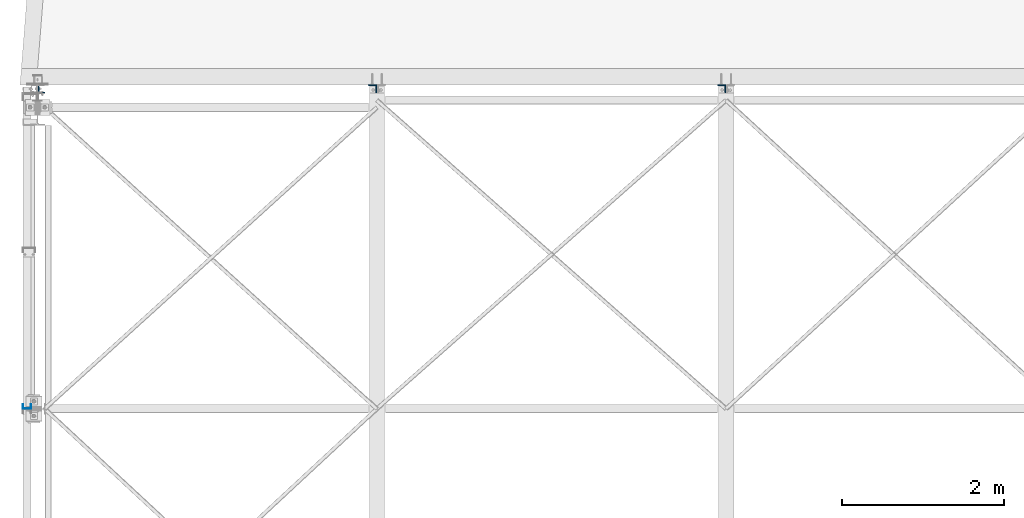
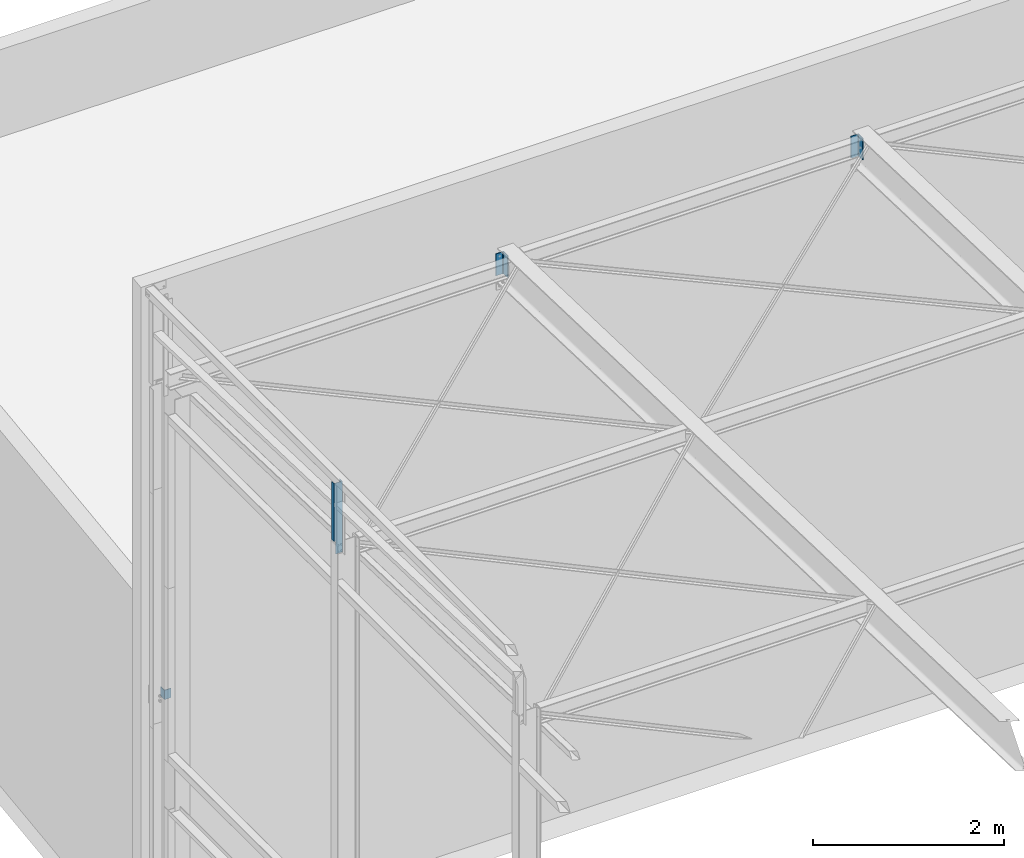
# One storey, part 18 of 123: 4 columns, 4 elements without a shape of their own.
"""IFC2X3 building model written with IfcOpenShell, lengths in millimetres."""

import ifcopenshell
import ifcopenshell.guid

model = None  # the IFC model being written
_history = None  # IfcOwnerHistory: only IFC2X3 demands one
_inside = {}  # id of a spatial element -> (the spatial element, [elements in it])
_under = {}  # id of a project, library or spatial element -> (it, [spatial elements below it])
_declared = {}  # id of a project -> (the project, [libraries it declares])
_typed = {}  # id of a type object -> (the type object, [elements of that type])
_made_of = {}  # id of a material, layer set ... -> (it, [elements and type objects made of it])


def new_model(schema):
    """Start an empty IFC model of exactly this schema.

    Asked for "IFC4X3", IfcOpenShell would pick the latest addendum, in which some entities
    have other attributes; the version numbers below select the first issue.
    IFC2X3 requires an IfcOwnerHistory on every rooted entity: one is made here for all.
    """
    global model, _history
    if schema == "IFC4X3":
        model = ifcopenshell.file(schema_version=(4, 3, 0, 0))
    else:
        model = ifcopenshell.file(schema=schema)
    _inside.clear()
    _under.clear()
    _declared.clear()
    _typed.clear()
    _made_of.clear()
    _history = None
    if model.schema == "IFC2X3":
        org = make("IfcOrganization", Name="unknown")
        user = make(
            "IfcPersonAndOrganization",
            ThePerson=make("IfcPerson", FamilyName="unknown"),
            TheOrganization=org,
        )
        app = make(
            "IfcApplication",
            ApplicationDeveloper=org,
            Version="unknown",
            ApplicationFullName="unknown",
            ApplicationIdentifier="unknown",
        )
        _history = make(
            "IfcOwnerHistory",
            OwningUser=user,
            OwningApplication=app,
            ChangeAction="ADDED",
            CreationDate=0,
        )
    return model


def make(cls, **values):
    """One entity of the class cls with the attributes given. An attribute that is None is left unset."""
    return model.create_entity(
        cls, **{name: value for name, value in values.items() if value is not None}
    )


def rooted(cls, **values):
    """An entity with a GlobalId (a new one), such as an element, a storey or a relation."""
    return make(cls, GlobalId=ifcopenshell.guid.new(), OwnerHistory=_history, **values)


def si_unit(unit_type, name, prefix=None):
    """IfcSIUnit, for example si_unit("LENGTHUNIT", "METRE", prefix="MILLI")."""
    return make("IfcSIUnit", UnitType=unit_type, Prefix=prefix, Name=name)


def assignment(units):
    """IfcUnitAssignment: the units of a project."""
    return None if units is None else make("IfcUnitAssignment", Units=units)


def point(xyz):
    """IfcCartesianPoint."""
    return None if xyz is None else make("IfcCartesianPoint", Coordinates=xyz)


def direction(xyz):
    """IfcDirection."""
    return None if xyz is None else make("IfcDirection", DirectionRatios=xyz)


def frame(location, z_axis=None, x_axis=None):
    """IfcAxis2Placement3D, a coordinate frame: its origin and axes. An axis left out is left unset."""
    return make(
        "IfcAxis2Placement3D",
        Location=point(location),
        Axis=direction(z_axis),
        RefDirection=direction(x_axis),
    )


def frame_2d(location, x_axis=None):
    """IfcAxis2Placement2D, a coordinate frame in the plane: its origin and x axis."""
    return make(
        "IfcAxis2Placement2D", Location=point(location), RefDirection=direction(x_axis)
    )


def origin_with_axes():
    """The frame at (0, 0, 0) with the z axis (0, 0, 1) and the x axis (1, 0, 0) written out."""
    return frame((0.0, 0.0, 0.0), z_axis=(0.0, 0.0, 1.0), x_axis=(1.0, 0.0, 0.0))


def origin_2d_with_axis():
    """The frame at (0, 0) in the plane with the x axis (1, 0) written out."""
    return frame_2d((0.0, 0.0), x_axis=(1.0, 0.0))


def place(relative_to, where):
    """IfcLocalPlacement: puts the frame where relative to a parent placement (None: the world)."""
    return make(
        "IfcLocalPlacement", PlacementRelTo=relative_to, RelativePlacement=where
    )


def context(
    kind, dimensions, precision=None, world=None, true_north=None, identifier=None
):
    """IfcGeometricRepresentationContext, for example the 3D "Model" context."""
    return make(
        "IfcGeometricRepresentationContext",
        ContextIdentifier=identifier,
        ContextType=kind,
        CoordinateSpaceDimension=dimensions,
        Precision=precision,
        WorldCoordinateSystem=world,
        TrueNorth=true_north,
    )


def subcontext(parent, identifier, kind, view, scale=None):
    """IfcGeometricRepresentationSubContext, for example "Body" below "Model"."""
    return make(
        "IfcGeometricRepresentationSubContext",
        ContextIdentifier=identifier,
        ContextType=kind,
        ParentContext=parent,
        TargetScale=scale,
        TargetView=view,
    )


def project(units=None, contexts=None):
    """IfcProject with its units and contexts."""
    return rooted(
        "IfcProject",
        Name="project",
        RepresentationContexts=contexts,
        UnitsInContext=assignment(units),
    )


def spatial(cls, under=None, at=None, **own):
    """A site, building, storey or space (cls), placed at a placement, below another one or the project."""
    s = rooted(cls, ObjectPlacement=at, **own)
    if under is not None:
        _under.setdefault(under.id(), (under, []))[1].append(s)
    return s


def polyline(points):
    """IfcPolyline through the points."""
    return make("IfcPolyline", Points=[point(p) for p in points])


def profile(cls, at=None, kind="AREA", **sizes):
    """A parametric profile (cls). Its sizes go by their IFC names, for example OverallWidth=200.0."""
    return make(cls, ProfileType=kind, Position=at, **sizes)


def l_section(**sizes):
    """IfcLShapeProfileDef."""
    return profile("IfcLShapeProfileDef", **sizes)


def u_section(**sizes):
    """IfcUShapeProfileDef."""
    return profile("IfcUShapeProfileDef", **sizes)


def outline(outer, holes=None, kind="AREA"):
    """IfcArbitraryClosedProfileDef: a profile drawn as a closed curve; with holes, ...WithVoids."""
    if holes is None:
        return make("IfcArbitraryClosedProfileDef", ProfileType=kind, OuterCurve=outer)
    return make(
        "IfcArbitraryProfileDefWithVoids",
        ProfileType=kind,
        OuterCurve=outer,
        InnerCurves=holes,
    )


def extrude(swept, where, along, depth):
    """IfcExtrudedAreaSolid: the profile swept, set in the frame where, extruded along a direction by depth."""
    return make(
        "IfcExtrudedAreaSolid",
        SweptArea=swept,
        Position=where,
        ExtrudedDirection=direction(along),
        Depth=depth,
    )


def boolean(op, a, b):
    """IfcBooleanResult of two solids."""
    return make("IfcBooleanResult", Operator=op, FirstOperand=a, SecondOperand=b)


def shape(context_of_items, identifier, shape_type, items):
    """IfcShapeRepresentation: the items that make up one representation, for example the "Body"."""
    return make(
        "IfcShapeRepresentation",
        ContextOfItems=context_of_items,
        RepresentationIdentifier=identifier,
        RepresentationType=shape_type,
        Items=items,
    )


def material(Name=None, Category=None):
    """IfcMaterial."""
    return make("IfcMaterial", Name=Name, Category=Category)


def made_of(thing, what):
    """Note that an element or type object is made of a material, layer set ...; save() writes the relation."""
    if what is not None:
        _made_of.setdefault(what.id(), (what, []))[1].append(thing)
    return thing


def type_object(cls, material=None, **own):
    """A type object (cls), such as IfcWallType, which elements share."""
    return made_of(rooted(cls, **own), material)


def element(
    cls,
    number,
    at=None,
    inside=None,
    cuts=None,
    type_object=None,
    material=None,
    context=None,
    identifier="Body",
    shape_type=None,
    held_by="IfcProductDefinitionShape",
    body=None,
    shapes=None,
    **own,
):
    """One element of the class cls, such as IfcWall. Its Tag is "e" and its number.

    at: its placement. inside: the storey or other place that contains it. cuts: it is an
    opening in that element (IfcRelVoidsElement). A single representation is given by context,
    identifier, shape_type and body (its items); several are given by shapes. held_by: the class
    of the entity that holds the representations. save() writes the other relations.
    """
    e = rooted(cls, Tag="e%d" % number, ObjectPlacement=at, **own)
    if body is not None:
        shapes = [shape(context, identifier, shape_type, body)]
    if shapes is not None:
        e.Representation = make(held_by, Representations=shapes)
    if inside is not None:
        _inside.setdefault(inside.id(), (inside, []))[1].append(e)
    if cuts is not None:
        rooted(
            "IfcRelVoidsElement", RelatingBuildingElement=cuts, RelatedOpeningElement=e
        )
    if type_object is not None:
        _typed.setdefault(type_object.id(), (type_object, []))[1].append(e)
    return made_of(e, material)


def aggregate(whole, parts):
    """IfcRelAggregates: a whole, such as a stair, and the parts it consists of."""
    return rooted("IfcRelAggregates", RelatingObject=whole, RelatedObjects=parts)


def save(model, path):
    """Write the relations noted so far, then the file.

    IfcRelAggregates (storeys below a building ...), IfcRelContainedInSpatialStructure (elements
    in a storey), IfcRelDefinesByType, IfcRelAssociatesMaterial and IfcRelDeclares: one each for
    every whole, place, type object, material and project.
    """
    for whole, parts in _under.values():
        aggregate(whole, parts)
    for where, things in _inside.values():
        rooted(
            "IfcRelContainedInSpatialStructure",
            RelatedElements=things,
            RelatingStructure=where,
        )
    for kind, things in _typed.values():
        rooted("IfcRelDefinesByType", RelatedObjects=things, RelatingType=kind)
    for what, things in _made_of.values():
        rooted("IfcRelAssociatesMaterial", RelatedObjects=things, RelatingMaterial=what)
    for by, libraries in _declared.values():
        rooted("IfcRelDeclares", RelatingContext=by, RelatedDefinitions=libraries)
    model.write(path)


model = new_model("IFC2X3")

# Units and contexts
model_context = context("Model", 3, precision=1e-05, world=origin_with_axes())
body_context = subcontext(model_context, "Body", "Model", "MODEL_VIEW")
ifc_project = project(units=[si_unit("LENGTHUNIT", "METRE", prefix="MILLI"), si_unit("AREAUNIT", "SQUARE_METRE"), si_unit("VOLUMEUNIT", "CUBIC_METRE"), si_unit("MASSUNIT", "GRAM", prefix="KILO"), si_unit("TIMEUNIT", "SECOND"), si_unit("PLANEANGLEUNIT", "RADIAN"), si_unit("SOLIDANGLEUNIT", "STERADIAN"), si_unit("THERMODYNAMICTEMPERATUREUNIT", "DEGREE_CELSIUS"), si_unit("LUMINOUSINTENSITYUNIT", "LUMEN")], contexts=[model_context])

# Site, building, storey
site_placement = place(None, origin_with_axes())
site = spatial("IfcSite", under=ifc_project, at=site_placement, Name="Undefined", CompositionType="ELEMENT")
building_placement = place(site_placement, origin_with_axes())
building = spatial("IfcBuilding", under=site, at=building_placement, Name="Undefined", CompositionType="ELEMENT")
storey_placement = place(building_placement, origin_with_axes())
storey = spatial("IfcBuildingStorey", under=building, at=storey_placement, Name="Undefined", CompositionType="ELEMENT", Elevation=0.0)

# Assembly, column
assembly_1_placement = place(storey_placement, origin_with_axes())
assembly_1 = element("IfcElementAssembly", 1, at=assembly_1_placement, inside=storey, Name="Steel Assembly", AssemblyPlace="NOTDEFINED", PredefinedType="RIGID_FRAME")
ifc_material = material(Name="STEEL/S235-E24")
column_type_1 = type_object("IfcColumnType", Name="UPF-100*50*4", PredefinedType="NOTDEFINED")
column_1_placement = place(assembly_1_placement, frame((-130.000001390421, 11428.2999999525, 7535.0013155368), z_axis=(0.0, 0.0, 1.0), x_axis=(1.0, 0.0, 0.0)))
column_1 = element("IfcColumn", 2, at=column_1_placement, type_object=column_type_1, material=ifc_material, Name="BAIONNETTE", ObjectType="UPF-100*50*4", context=body_context, shape_type="CSG", body=[
    boolean("DIFFERENCE", extrude(u_section(Depth=100.0, FlangeWidth=50.0, WebThickness=4.0, FlangeThickness=4.0, at=origin_2d_with_axis()), frame((0.0, 0.0, 909.998684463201), z_axis=(0.0, 0.0, -1.0), x_axis=(0.0, 1.0, 0.0)), (0.0, 0.0, 1.0), 910.0), extrude(outline(polyline([(0.0, 0.0), (19.999999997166, 0.0), (19.999999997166, 170.0), (-2.84853740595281e-09, 170.0), (0.0, 0.0)])), frame((-50.0000000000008, -27.5, 170.0), z_axis=(0.0, 1.0, 0.0), x_axis=(1.0, 0.0, 0.0)), (0.0, 0.0, 1.0), 55.0)),
])
aggregate(assembly_1, [column_1])

assembly_2_placement = place(storey_placement, origin_with_axes())
assembly_2 = element("IfcElementAssembly", 3, at=assembly_2_placement, inside=storey, Name="Steel Assembly", AssemblyPlace="NOTDEFINED", PredefinedType="RIGID_FRAME")
column_type_2 = type_object("IfcColumnType", Name="L100*10", PredefinedType="NOTDEFINED")
column_2_placement = place(assembly_2_placement, frame((8425.0, 15340.0, 7203.28139518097), z_axis=(0.0, 0.0, 1.0), x_axis=(-1.0, 0.0, 0.0)))
column_2 = element("IfcColumn", 4, at=column_2_placement, type_object=column_type_2, material=ifc_material, Name="ATTACHE", ObjectType="L100*10", context=body_context, shape_type="SweptSolid", body=[
    extrude(l_section(Depth=100.0, Width=100.0, Thickness=10.0, FilletRadius=12.0, EdgeRadius=6.0, at=origin_2d_with_axis()), frame((0.0, 0.0, 280.0), z_axis=(0.0, 0.0, -1.0), x_axis=(0.0, 1.0, 0.0)), (0.0, 0.0, 1.0), 280.0),
])
aggregate(assembly_2, [column_2])

assembly_3_placement = place(storey_placement, origin_with_axes())
assembly_3 = element("IfcElementAssembly", 5, at=assembly_3_placement, inside=storey, Name="Steel Assembly", AssemblyPlace="NOTDEFINED", PredefinedType="RIGID_FRAME")
column_3_placement = place(assembly_3_placement, frame((4125.0, 15340.0, 7203.28139518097), z_axis=(0.0, 0.0, 1.0), x_axis=(-1.0, 0.0, 0.0)))
column_3 = element("IfcColumn", 6, at=column_3_placement, type_object=column_type_2, material=ifc_material, Name="ATTACHE", ObjectType="L100*10", context=body_context, shape_type="SweptSolid", body=[
    extrude(l_section(Depth=100.0, Width=100.0, Thickness=10.0, FilletRadius=12.0, EdgeRadius=6.0, at=origin_2d_with_axis()), frame((0.0, 0.0, 280.0), z_axis=(0.0, 0.0, -1.0), x_axis=(0.0, 1.0, 0.0)), (0.0, 0.0, 1.0), 280.0),
])
aggregate(assembly_3, [column_3])

assembly_4_placement = place(storey_placement, origin_with_axes())
assembly_4 = element("IfcElementAssembly", 7, at=assembly_4_placement, inside=storey, Name="Steel Assembly", AssemblyPlace="NOTDEFINED", PredefinedType="RIGID_FRAME")
column_type_3 = type_object("IfcColumnType", Name="L80*8", PredefinedType="NOTDEFINED")
column_4_placement = place(assembly_4_placement, frame((50.0, 15330.0000024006, 3255.0), z_axis=(0.0, 0.0, 1.0), x_axis=(1.0, 0.0, 0.0)))
column_4 = element("IfcColumn", 8, at=column_4_placement, type_object=column_type_3, material=ifc_material, Name="ATTACHE", ObjectType="L80*8", context=body_context, shape_type="SweptSolid", body=[
    extrude(l_section(Depth=80.0, Width=80.0, Thickness=8.0, FilletRadius=10.0, EdgeRadius=5.0, at=origin_2d_with_axis()), frame((0.0, 0.0, 120.0), z_axis=(0.0, 0.0, -1.0), x_axis=(0.0, 1.0, 0.0)), (0.0, 0.0, 1.0), 120.0),
])
aggregate(assembly_4, [column_4])

save(model, "model.ifc")
